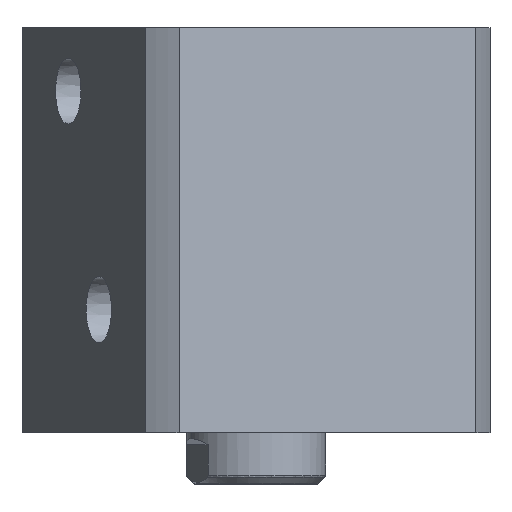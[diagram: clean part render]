
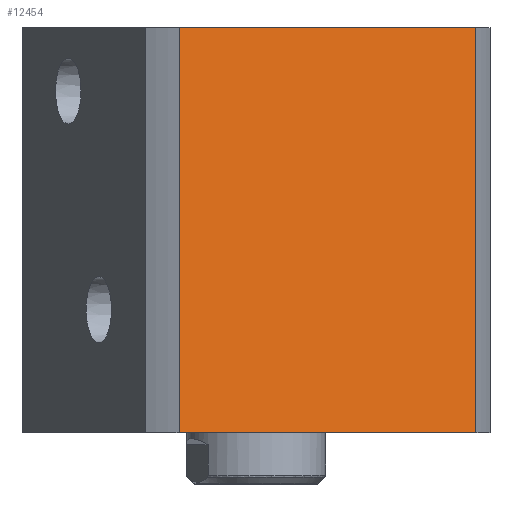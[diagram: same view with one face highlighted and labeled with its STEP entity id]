
A CAD part, front view. The second image highlights one B-rep face of the part: STEP entity #12454.
In plain terms, the highlighted planar face has unit normal (0.383, -0.924, 0) as drawn and (0, -1, 0) by its records, which use the part's own axes.
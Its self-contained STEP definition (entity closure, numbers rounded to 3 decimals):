
#678 = ORIENTED_EDGE ( 'NONE', *, *, #10771, .F. ) ;
#1111 = AXIS2_PLACEMENT_3D ( 'NONE', #5095, #14642, #6474 ) ;
#1427 = CARTESIAN_POINT ( 'NONE',  ( 40.435, -47., 102. ) ) ;
#1744 = VERTEX_POINT ( 'NONE', #3992 ) ;
#2330 = EDGE_LOOP ( 'NONE', ( #678, #2831, #8676, #6260 ) ) ;
#2831 = ORIENTED_EDGE ( 'NONE', *, *, #13161, .T. ) ;
#3111 = CARTESIAN_POINT ( 'NONE',  ( -47., -47., 102. ) ) ;
#3287 = FACE_OUTER_BOUND ( 'NONE', #2330, .T. ) ;
#3992 = CARTESIAN_POINT ( 'NONE',  ( -40.435, -47., 102. ) ) ;
#5095 = CARTESIAN_POINT ( 'NONE',  ( -47., -47., 102. ) ) ;
#6253 = CARTESIAN_POINT ( 'NONE',  ( -40.435, -47., 0. ) ) ;
#6260 = ORIENTED_EDGE ( 'NONE', *, *, #14310, .F. ) ;
#6286 = VERTEX_POINT ( 'NONE', #16258 ) ;
#6288 = VECTOR ( 'NONE', #12399, 1000. ) ;
#6413 = PLANE ( 'NONE',  #1111 ) ;
#6474 = DIRECTION ( 'NONE',  ( 0., 0., 1. ) ) ;
#6919 = CARTESIAN_POINT ( 'NONE',  ( -47., -47., 0. ) ) ;
#8011 = VECTOR ( 'NONE', #16868, 1000. ) ;
#8135 = VERTEX_POINT ( 'NONE', #1427 ) ;
#8466 = VERTEX_POINT ( 'NONE', #6253 ) ;
#8676 = ORIENTED_EDGE ( 'NONE', *, *, #11912, .F. ) ;
#9933 = LINE ( 'NONE', #6919, #6288 ) ;
#10771 = EDGE_CURVE ( 'NONE', #8466, #1744, #12931, .T. ) ;
#11912 = EDGE_CURVE ( 'NONE', #8135, #6286, #13135, .T. ) ;
#12399 = DIRECTION ( 'NONE',  ( 1., 0., 0. ) ) ;
#12454 = ADVANCED_FACE ( 'NONE', ( #3287 ), #6413, .F. ) ;
#12478 = LINE ( 'NONE', #3111, #8011 ) ;
#12510 = VECTOR ( 'NONE', #17024, 1000. ) ;
#12900 = CARTESIAN_POINT ( 'NONE',  ( -40.435, -47., -198. ) ) ;
#12931 = LINE ( 'NONE', #12900, #12510 ) ;
#13135 = LINE ( 'NONE', #16811, #15914 ) ;
#13161 = EDGE_CURVE ( 'NONE', #8466, #6286, #9933, .T. ) ;
#14048 = DIRECTION ( 'NONE',  ( 0., 0., -1. ) ) ;
#14310 = EDGE_CURVE ( 'NONE', #1744, #8135, #12478, .T. ) ;
#14642 = DIRECTION ( 'NONE',  ( 0., 1., 0. ) ) ;
#15914 = VECTOR ( 'NONE', #14048, 1000. ) ;
#16258 = CARTESIAN_POINT ( 'NONE',  ( 40.435, -47., 0. ) ) ;
#16811 = CARTESIAN_POINT ( 'NONE',  ( 40.435, -47., -198. ) ) ;
#16868 = DIRECTION ( 'NONE',  ( 1., 0., 0. ) ) ;
#17024 = DIRECTION ( 'NONE',  ( 0., 0., 1. ) ) ;
